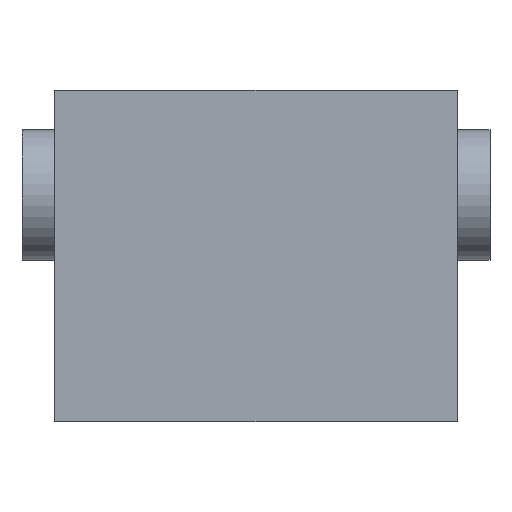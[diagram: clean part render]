
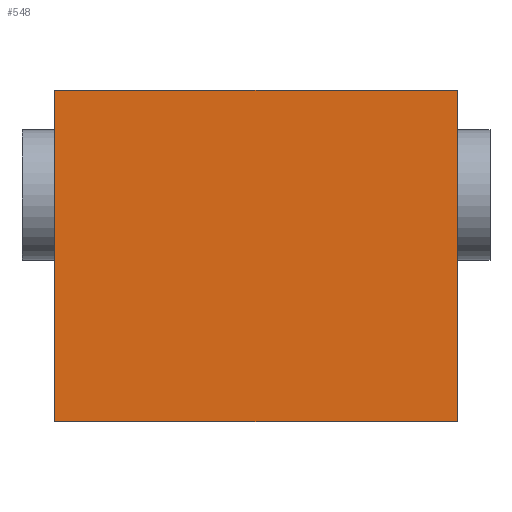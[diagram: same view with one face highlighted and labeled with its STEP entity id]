
A CAD part, front view. The second image highlights one B-rep face of the part: STEP entity #548.
In plain terms, the highlighted planar face has unit normal (0, -1, 0).
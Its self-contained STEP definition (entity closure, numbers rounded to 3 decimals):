
#52=FACE_OUTER_BOUND('',#87,.T.);
#87=EDGE_LOOP('',(#425,#426,#427,#428));
#141=LINE('',#839,#205);
#144=LINE('',#844,#208);
#146=LINE('',#848,#210);
#148=LINE('',#851,#212);
#205=VECTOR('',#681,10.);
#208=VECTOR('',#686,10.);
#210=VECTOR('',#690,10.);
#212=VECTOR('',#694,10.);
#261=VERTEX_POINT('',#837);
#262=VERTEX_POINT('',#838);
#263=VERTEX_POINT('',#843);
#264=VERTEX_POINT('',#847);
#317=EDGE_CURVE('',#261,#262,#141,.T.);
#320=EDGE_CURVE('',#262,#263,#144,.T.);
#322=EDGE_CURVE('',#263,#264,#146,.T.);
#324=EDGE_CURVE('',#264,#261,#148,.T.);
#425=ORIENTED_EDGE('',*,*,#324,.T.);
#426=ORIENTED_EDGE('',*,*,#317,.T.);
#427=ORIENTED_EDGE('',*,*,#320,.T.);
#428=ORIENTED_EDGE('',*,*,#322,.T.);
#519=PLANE('',#602);
#548=ADVANCED_FACE('',(#52),#519,.T.);
#602=AXIS2_PLACEMENT_3D('',#852,#695,#696);
#681=DIRECTION('',(1.,0.,0.));
#686=DIRECTION('',(0.,0.,1.));
#690=DIRECTION('',(-1.,0.,0.));
#694=DIRECTION('',(0.,0.,-1.));
#695=DIRECTION('center_axis',(0.,-1.,0.));
#696=DIRECTION('ref_axis',(0.,0.,-1.));
#837=CARTESIAN_POINT('',(-308.,-308.,-253.5));
#838=CARTESIAN_POINT('',(308.,-308.,-253.5));
#839=CARTESIAN_POINT('',(-308.,-308.,-253.5));
#843=CARTESIAN_POINT('',(308.,-308.,253.5));
#844=CARTESIAN_POINT('',(308.,-308.,-253.5));
#847=CARTESIAN_POINT('',(-308.,-308.,253.5));
#848=CARTESIAN_POINT('',(308.,-308.,253.5));
#851=CARTESIAN_POINT('',(-308.,-308.,253.5));
#852=CARTESIAN_POINT('Origin',(0.,-308.,0.));
